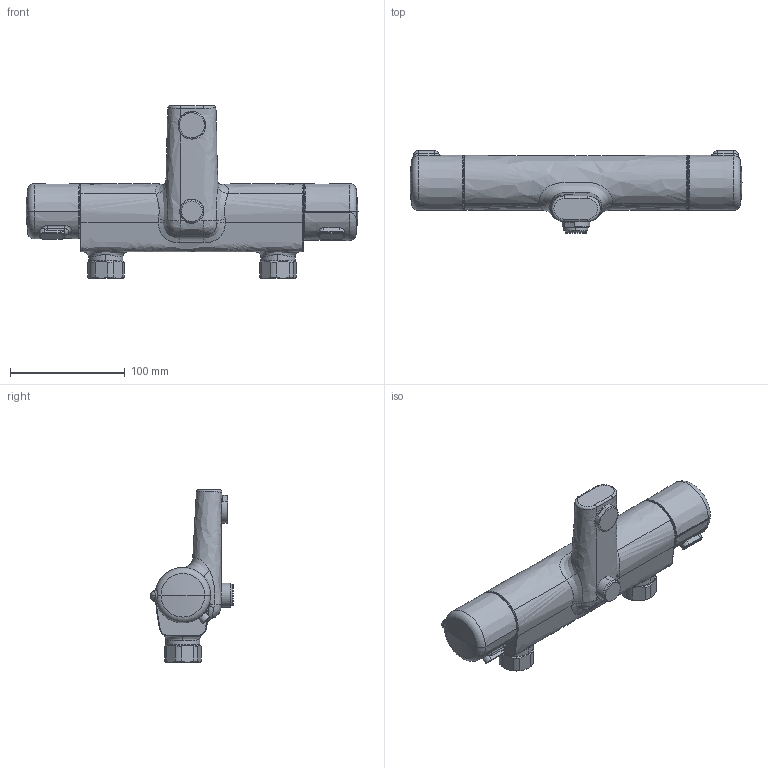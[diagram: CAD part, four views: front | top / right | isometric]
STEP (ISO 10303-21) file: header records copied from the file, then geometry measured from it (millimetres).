
FILE_DESCRIPTION (( 'STEP AP203' ), '1' );
FILE_NAME ('7462L(2023).STEP', '2023-08-23T09:10:03', ( '' ), ( '' ), 'SwSTEP 2.0', 'SolidWorks 2016', '' );
FILE_SCHEMA (( 'CONFIG_CONTROL_DESIGN' ));
Length unit declared in the file: millimetre
Products named in the file (1): 7462L(2023)
Bounding box: 289.57 x 72 x 150.5 mm (x, y, z)
Volume: 765939.4 mm3; surface area: 73419.1 mm2
Topology: 1 solids, 1 shells, 244 faces, 611 edges, 387 vertices
Faces by surface type: bspline 57, cylinder 53, plane 49, cone 46, torus 20, sphere 19
Entity records: 15757 total; most frequent: CARTESIAN_POINT 10386, ORIENTED_EDGE 1218, DIRECTION 965, EDGE_CURVE 609, AXIS2_PLACEMENT_3D 424, VERTEX_POINT 386, EDGE_LOOP 263, B_SPLINE_CURVE_WITH_KNOTS 250
